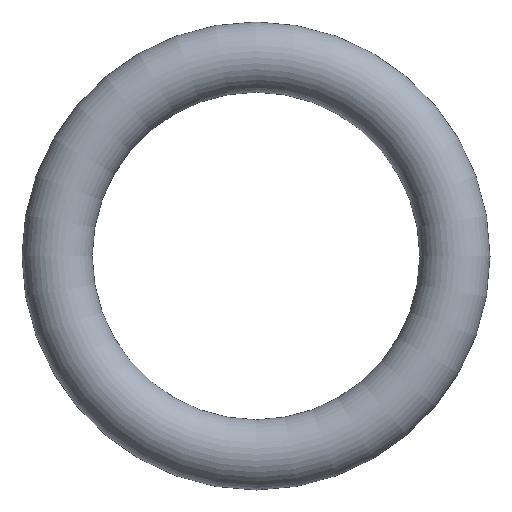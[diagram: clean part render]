
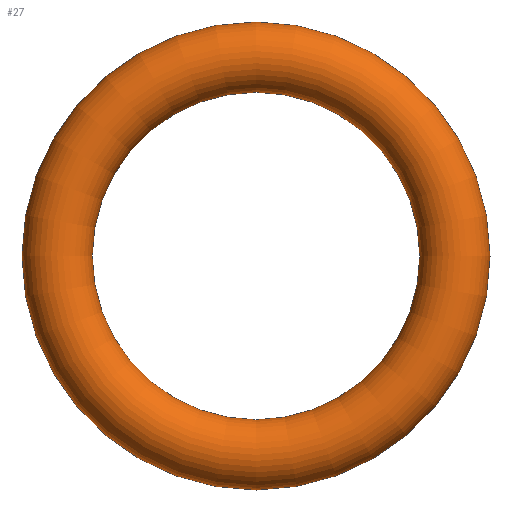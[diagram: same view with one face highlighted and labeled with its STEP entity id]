
A CAD part, front view. The second image highlights one B-rep face of the part: STEP entity #27.
In plain terms, the highlighted toroidal (fillet/blend) face has major radius 4.242 mm and minor radius 0.749 mm.
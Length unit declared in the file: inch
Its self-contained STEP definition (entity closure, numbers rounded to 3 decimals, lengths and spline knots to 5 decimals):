
#15=FACE_OUTER_BOUND('',#16,.T.);
#16=EDGE_LOOP('',(#22,#23,#24,#25));
#17=CIRCLE('',#43,0.0295);
#18=CIRCLE('',#44,0.1375);
#19=VERTEX_POINT('',#55);
#20=EDGE_CURVE('',#19,#19,#17,.T.);
#21=EDGE_CURVE('',#19,#19,#18,.T.);
#22=ORIENTED_EDGE('',*,*,#20,.F.);
#23=ORIENTED_EDGE('',*,*,#21,.T.);
#24=ORIENTED_EDGE('',*,*,#20,.T.);
#25=ORIENTED_EDGE('',*,*,#21,.F.);
#26=TOROIDAL_SURFACE('',#42,0.167,0.0295);
#27=ADVANCED_FACE('',(#15),#26,.T.);
#42=AXIS2_PLACEMENT_3D('',#54,#47,#48);
#43=AXIS2_PLACEMENT_3D('',#56,#49,#50);
#44=AXIS2_PLACEMENT_3D('',#57,#51,#52);
#47=DIRECTION('center_axis',(0.,-1.,0.));
#48=DIRECTION('ref_axis',(0.,0.,-1.));
#49=DIRECTION('center_axis',(-1.,0.,0.));
#50=DIRECTION('ref_axis',(0.,0.,1.));
#51=DIRECTION('center_axis',(0.,1.,0.));
#52=DIRECTION('ref_axis',(0.,0.,-1.));
#54=CARTESIAN_POINT('Origin',(0.,0.,0.));
#55=CARTESIAN_POINT('',(0.,0.,0.1375));
#56=CARTESIAN_POINT('Origin',(0.,0.,0.167));
#57=CARTESIAN_POINT('Origin',(0.,0.,0.));
